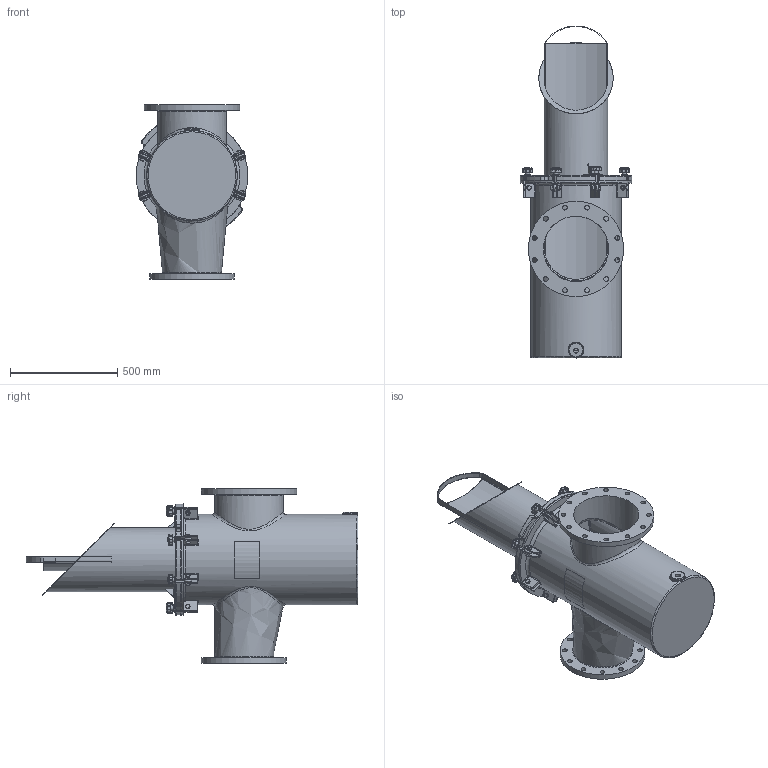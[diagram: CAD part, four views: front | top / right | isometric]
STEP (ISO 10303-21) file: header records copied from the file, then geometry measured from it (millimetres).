
FILE_DESCRIPTION(/* description */ ('300MM X 250MM FIBERGLASS STRAINER BODY'),/* implementation_level */ '2;1');
FILE_NAME(/* name */ 'C:\Users\r.kommineni.ext\Desktop\NB\CAD\Workspace\FG Reducing Strainer\Guardian FG Reducing H&L Strainer (Metric)_CLEARANCE VOLUME\STRAINER H&L 300MM X 250MM.stp',/* time_stamp */ '2017-06-09T13:32:58-04:00',/* author */ ('r.kommineni.ext'),/* organization */ (''),/* preprocessor_version */ 'ST-DEVELOPER v16.1',/* originating_system */ 'Autodesk Inventor 2016',/* authorisation */ '');
FILE_SCHEMA (('CONFIG_CONTROL_DESIGN'));
Length unit declared in the file: inch
Products named in the file (25): NBFGBODY12X10MM; 150NBCVR20R2; 150NBGSK16R1; Perforated Basket 16in; Bride (Ring) 16in; Baffle 16in; Handle 16in; Bottom Strainer 16in; BRACESTRCVR16_Welds; BRACE (BASE) FOR 16 BODY; BRACE (PROJ) FOR 16 BODY; Bumper; BRACESTRCVR16; Nut- 1_2  UNC; Bolt-1_2 x 1 1_2  UNC; EyeBolt; Washer; Knob M10; Securing Assembly For FG  with Brace; Securing Assembly For FG without Brace; Label for 16.625 inch (Right); Label for 16.625 inch (Left); NBBSK10T316_clearance; NBBSK10T316_clearance_1; STRAINER H&L 300MM X 250MM
Assembly tree (40 placements, depth 3):
  STRAINER H&L 300MM X 250MM
    NBFGBODY12X10MM
    150NBCVR20R2
    150NBGSK16R1
    NBBSK10T316_clearance_1
      Perforated Basket 16in
      Bride (Ring) 16in
      Baffle 16in
      Handle 16in
      Bottom Strainer 16in
      NBBSK10T316_clearance
    BRACESTRCVR16
      BRACESTRCVR16_Welds
      BRACE (BASE) FOR 16 BODY
      BRACE (PROJ) FOR 16 BODY
      Bumper  x6
    Securing Assembly For FG  with Brace  x2
      Nut- 1_2  UNC
      Bolt-1_2 x 1 1_2  UNC
      EyeBolt
      Washer
      Knob M10
    Securing Assembly For FG without Brace  x6
      Nut- 1_2  UNC
      Bolt-1_2 x 1 1_2  UNC
      EyeBolt
      Washer
      Knob M10
    Label for 16.625 inch (Right)
    Label for 16.625 inch (Left)
Bounding box: 520.7 x 1548.8 x 812.8 mm (x, y, z)
Volume: 23965441.6 mm3; surface area: 6745121.5 mm2
Topology: 66 solids, 69 shells, 1836 faces, 4204 edges, 2491 vertices
Faces by surface type: cylinder 675, plane 514, cone 184, torus 166, sphere 158, bspline 139
Full cylindrical faces by diameter (mm): 3.175 x11, 6.35 x2, 8.382 x8, 9.525 x16, 10.592 x8, 12.7 x8, 15.875 x16, 19 x16, 19.05 x8, 22.098 x24, 22.809 x1, 31.75 x8, 68.263 x1, 295.275 x2, 298.45 x2, 300.99 x1, 304.8 x1, 320.675 x1, 396.24 x1, 406.4 x2, 409.575 x1, 415.925 x1, 422.275 x1, 444.5 x1, 457.2 x1, 463.55 x1
Entity records: 36070 total; most frequent: CARTESIAN_POINT 12447, DIRECTION 4898, ORIENTED_EDGE 4421, EDGE_CURVE 2235, AXIS2_PLACEMENT_3D 2001, VERTEX_POINT 1407, EDGE_LOOP 1213, ADVANCED_FACE 986
